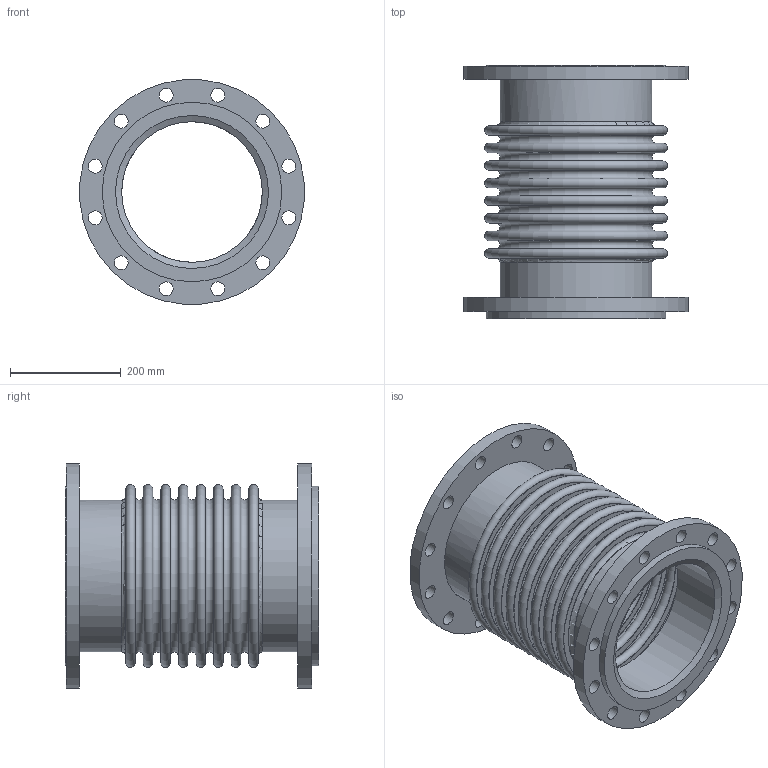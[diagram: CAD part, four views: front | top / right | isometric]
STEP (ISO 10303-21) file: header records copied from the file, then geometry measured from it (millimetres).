
FILE_DESCRIPTION(/* description */ (''),/* implementation_level */ '2;1');
FILE_NAME(/* name */ 'C:\001_Work\Designs\EFL250-ASA150LB\EFL250-10x18 (ASA150LB).stp',/* time_stamp */ '2016-05-11T00:20:02-04:00',/* author */ ('rramoutar'),/* organization */ ('Mason Industries Inc.'),/* preprocessor_version */ 'ST-DEVELOPER v15.6',/* originating_system */ 'Autodesk Inventor 2015',/* authorisation */ '');
FILE_SCHEMA (('CONFIG_CONTROL_DESIGN'));
Length unit declared in the file: inch
Products named in the file (1): EFL250-10x18-ASA150LB
Bounding box: 404.85 x 457.2 x 404.85 mm (x, y, z)
Volume: 5673343.2 mm3; surface area: 1906350.4 mm2
Topology: 1 solids, 1 shells, 115 faces, 230 edges, 158 vertices
Faces by surface type: plane 43, cylinder 35, torus 34, cone 3
Full cylindrical faces by diameter (mm): 25.4 x24, 254 x2, 274.32 x2, 276.225 x3, 323.85 x2, 406.4 x2
Entity records: 2799 total; most frequent: DIRECTION 510, CARTESIAN_POINT 394, EDGE_LOOP 278, ORIENTED_EDGE 278, AXIS2_PLACEMENT_3D 255, FACE_BOUND 163, CIRCLE 139, VERTEX_POINT 139
